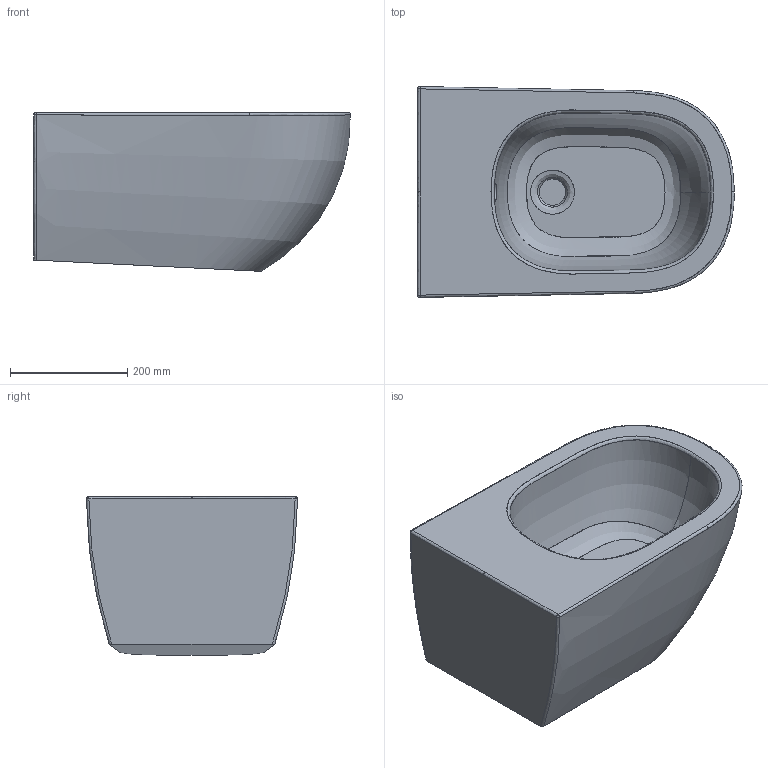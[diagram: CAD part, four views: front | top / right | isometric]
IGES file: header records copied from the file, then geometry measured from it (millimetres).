
Global section: file name: C:\Users\FULVIO\Desktop\Nic\2019\Giugno\Nuovi sanitari\Quid\Quid Bidet Sospeso\Modello 3D\Quid Bidet Sospeso.igs; native system: Rhinoceros ( Mar  6 2018 ); preprocessor: Trout Lake IGES 012 Mar  6 2018; date: 190624.080032; units: millimetre
Bounding box: 540.2 x 359.88 x 270.8 mm (x, y, z)
Surface area: 803491.6 mm2 (no closed solid volume)
Topology: 0 solids, 0 shells, 25 faces, 916 edges, 916 vertices
Faces by surface type: bspline 25
